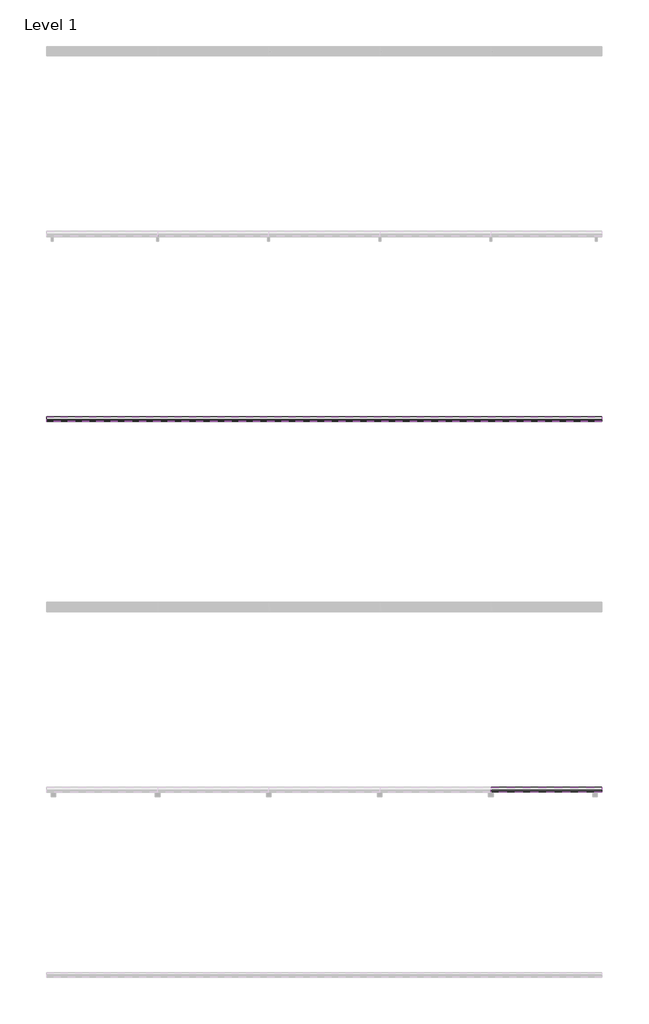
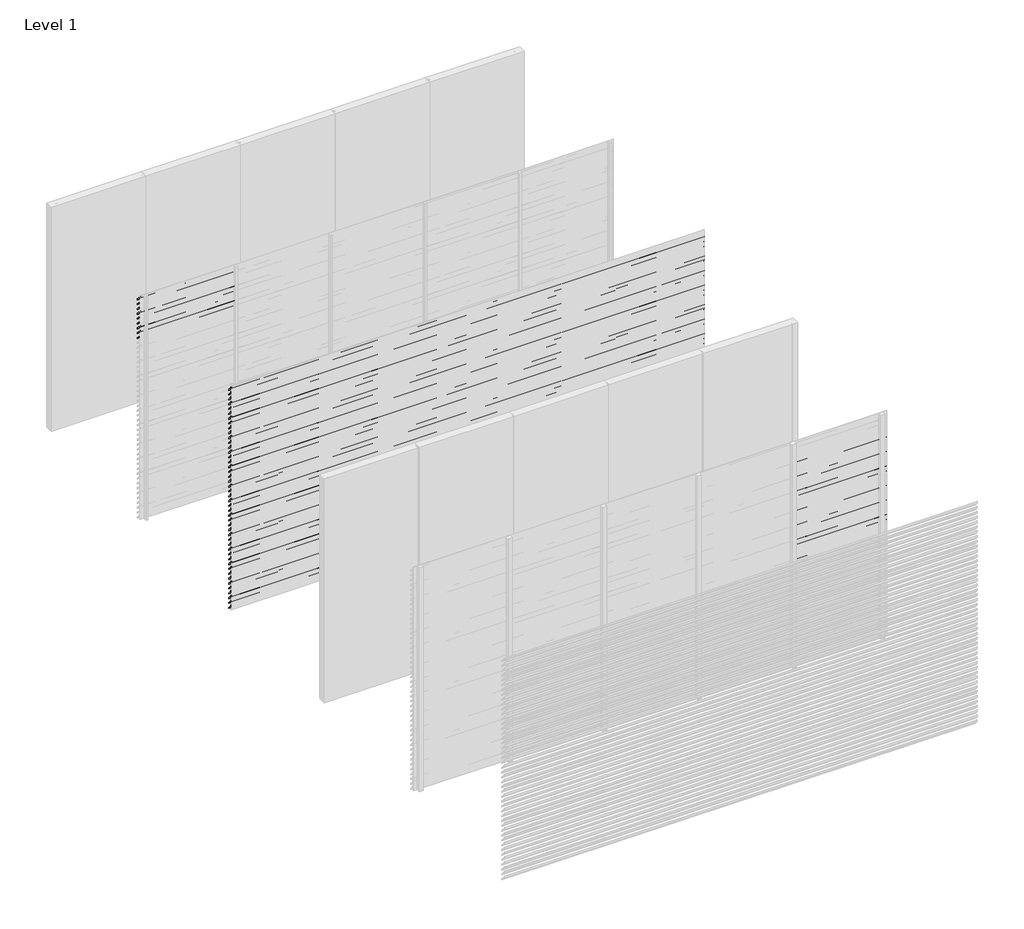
# One storey, part 7 of 12: 97 proxies.
"""IFC4 building model written with IfcOpenShell, lengths in millimetres."""

from ifc_helpers import new_model, si_unit, frame, origin, place, context, project, spatial, polyline, outline, extrude, element, save

model = new_model("IFC4")

# Units and contexts
model_context = context("Model", 3, world=origin())
ifc_project = project(units=[si_unit("LENGTHUNIT", "METRE", prefix="MILLI")], contexts=[model_context])

# Site, building, storey
site = spatial("IfcSite", under=ifc_project)
building = spatial("IfcBuilding", under=site)
storey = spatial("IfcBuildingStorey", under=building, Name="Level 1", Elevation=0.0)

# Proxies
placement = place(None, origin())
element("IfcBuildingElementProxy", 1, Name="Wall Sweeps", at=placement, inside=storey, context=model_context, shape_type="SweptSolid", body=[
    extrude(outline(polyline([(-5995.0, 2990.0), (-5995.0, 2980.7409854), (-5946.0, 2930.0), (-5946.0, 2914.0), (-5997.0, 2966.812046), (-5997.0, 2990.0), (-5995.0, 2990.0)])), frame((0.0, 0.0, 0.0), z_axis=(1.0, 0.0, 0.0), x_axis=(0.0, 1.0, 0.0)), (0.0, 0.0, 1.0), 1200.0),
])
element("IfcBuildingElementProxy", 2, Name="Wall Sweeps", at=placement, inside=storey, context=model_context, shape_type="SweptSolid", body=[
    extrude(outline(polyline([(-5995.0, 2925.0), (-5995.0, 2915.7409854), (-5946.0, 2865.0), (-5946.0, 2849.0), (-5997.0, 2901.812046), (-5997.0, 2925.0), (-5995.0, 2925.0)])), frame((0.0, 0.0, 0.0), z_axis=(1.0, 0.0, 0.0), x_axis=(0.0, 1.0, 0.0)), (0.0, 0.0, 1.0), 1200.0),
])
element("IfcBuildingElementProxy", 3, Name="Wall Sweeps", at=placement, inside=storey, context=model_context, shape_type="SweptSolid", body=[
    extrude(outline(polyline([(-5995.0, 2860.0), (-5995.0, 2850.7409854), (-5946.0, 2800.0), (-5946.0, 2784.0), (-5997.0, 2836.812046), (-5997.0, 2860.0), (-5995.0, 2860.0)])), frame((0.0, 0.0, 0.0), z_axis=(1.0, 0.0, 0.0), x_axis=(0.0, 1.0, 0.0)), (0.0, 0.0, 1.0), 1200.0),
])
element("IfcBuildingElementProxy", 4, Name="Wall Sweeps", at=placement, inside=storey, context=model_context, shape_type="SweptSolid", body=[
    extrude(outline(polyline([(-5995.0, 2795.0), (-5995.0, 2785.7409854), (-5946.0, 2735.0), (-5946.0, 2719.0), (-5997.0, 2771.812046), (-5997.0, 2795.0), (-5995.0, 2795.0)])), frame((0.0, 0.0, 0.0), z_axis=(1.0, 0.0, 0.0), x_axis=(0.0, 1.0, 0.0)), (0.0, 0.0, 1.0), 1200.0),
])
element("IfcBuildingElementProxy", 5, Name="Wall Sweeps", at=placement, inside=storey, context=model_context, shape_type="SweptSolid", body=[
    extrude(outline(polyline([(-5995.0, 2730.0), (-5995.0, 2720.7409854), (-5946.0, 2670.0), (-5946.0, 2654.0), (-5997.0, 2706.812046), (-5997.0, 2730.0), (-5995.0, 2730.0)])), frame((0.0, 0.0, 0.0), z_axis=(1.0, 0.0, 0.0), x_axis=(0.0, 1.0, 0.0)), (0.0, 0.0, 1.0), 1200.0),
])
element("IfcBuildingElementProxy", 6, Name="Wall Sweeps", at=placement, inside=storey, context=model_context, shape_type="SweptSolid", body=[
    extrude(outline(polyline([(-5995.0, 2665.0), (-5995.0, 2655.7409854), (-5946.0, 2605.0), (-5946.0, 2589.0), (-5997.0, 2641.812046), (-5997.0, 2665.0), (-5995.0, 2665.0)])), frame((0.0, 0.0, 0.0), z_axis=(1.0, 0.0, 0.0), x_axis=(0.0, 1.0, 0.0)), (0.0, 0.0, 1.0), 1200.0),
])
element("IfcBuildingElementProxy", 7, Name="Wall Sweeps", at=placement, inside=storey, context=model_context, shape_type="SweptSolid", body=[
    extrude(outline(polyline([(-5995.0, 2600.0), (-5995.0, 2590.7409854), (-5946.0, 2540.0), (-5946.0, 2524.0), (-5997.0, 2576.812046), (-5997.0, 2600.0), (-5995.0, 2600.0)])), frame((0.0, 0.0, 0.0), z_axis=(1.0, 0.0, 0.0), x_axis=(0.0, 1.0, 0.0)), (0.0, 0.0, 1.0), 1200.0),
])
element("IfcBuildingElementProxy", 8, Name="Wall Sweeps", at=placement, inside=storey, context=model_context, shape_type="SweptSolid", body=[
    extrude(outline(polyline([(-5995.0, 2535.0), (-5995.0, 2525.7409854), (-5946.0, 2475.0), (-5946.0, 2459.0), (-5997.0, 2511.812046), (-5997.0, 2535.0), (-5995.0, 2535.0)])), frame((0.0, 0.0, 0.0), z_axis=(1.0, 0.0, 0.0), x_axis=(0.0, 1.0, 0.0)), (0.0, 0.0, 1.0), 1200.0),
])
element("IfcBuildingElementProxy", 9, Name="Wall Sweeps", at=placement, inside=storey, context=model_context, shape_type="SweptSolid", body=[
    extrude(outline(polyline([(-5995.0, 2470.0), (-5995.0, 2460.7409854), (-5946.0, 2410.0), (-5946.0, 2394.0), (-5997.0, 2446.812046), (-5997.0, 2470.0), (-5995.0, 2470.0)])), frame((0.0, 0.0, 0.0), z_axis=(1.0, 0.0, 0.0), x_axis=(0.0, 1.0, 0.0)), (0.0, 0.0, 1.0), 1200.0),
])
element("IfcBuildingElementProxy", 10, Name="Wall Sweeps", at=placement, inside=storey, context=model_context, shape_type="SweptSolid", body=[
    extrude(outline(polyline([(-7995.0, 2990.0), (-7995.0, 2980.7409854), (-7946.0, 2930.0), (-7946.0, 2914.0), (-7997.0, 2966.812046), (-7997.0, 2990.0), (-7995.0, 2990.0)])), frame((0.0, 0.0, 0.0), z_axis=(1.0, 0.0, 0.0), x_axis=(0.0, 1.0, 0.0)), (0.0, 0.0, 1.0), 6000.0),
])
element("IfcBuildingElementProxy", 11, Name="Wall Sweeps", at=placement, inside=storey, context=model_context, shape_type="SweptSolid", body=[
    extrude(outline(polyline([(-7995.0, 2925.0), (-7995.0, 2915.7409854), (-7946.0, 2865.0), (-7946.0, 2849.0), (-7997.0, 2901.812046), (-7997.0, 2925.0), (-7995.0, 2925.0)])), frame((0.0, 0.0, 0.0), z_axis=(1.0, 0.0, 0.0), x_axis=(0.0, 1.0, 0.0)), (0.0, 0.0, 1.0), 6000.0),
])
element("IfcBuildingElementProxy", 12, Name="Wall Sweeps", at=placement, inside=storey, context=model_context, shape_type="SweptSolid", body=[
    extrude(outline(polyline([(-7995.0, 2860.0), (-7995.0, 2850.7409854), (-7946.0, 2800.0), (-7946.0, 2784.0), (-7997.0, 2836.812046), (-7997.0, 2860.0), (-7995.0, 2860.0)])), frame((0.0, 0.0, 0.0), z_axis=(1.0, 0.0, 0.0), x_axis=(0.0, 1.0, 0.0)), (0.0, 0.0, 1.0), 6000.0),
])
element("IfcBuildingElementProxy", 13, Name="Wall Sweeps", at=placement, inside=storey, context=model_context, shape_type="SweptSolid", body=[
    extrude(outline(polyline([(-7995.0, 2795.0), (-7995.0, 2785.7409854), (-7946.0, 2735.0), (-7946.0, 2719.0), (-7997.0, 2771.812046), (-7997.0, 2795.0), (-7995.0, 2795.0)])), frame((0.0, 0.0, 0.0), z_axis=(1.0, 0.0, 0.0), x_axis=(0.0, 1.0, 0.0)), (0.0, 0.0, 1.0), 6000.0),
])
element("IfcBuildingElementProxy", 14, Name="Wall Sweeps", at=placement, inside=storey, context=model_context, shape_type="SweptSolid", body=[
    extrude(outline(polyline([(-7995.0, 2730.0), (-7995.0, 2720.7409854), (-7946.0, 2670.0), (-7946.0, 2654.0), (-7997.0, 2706.812046), (-7997.0, 2730.0), (-7995.0, 2730.0)])), frame((0.0, 0.0, 0.0), z_axis=(1.0, 0.0, 0.0), x_axis=(0.0, 1.0, 0.0)), (0.0, 0.0, 1.0), 6000.0),
])
element("IfcBuildingElementProxy", 15, Name="Wall Sweeps", at=placement, inside=storey, context=model_context, shape_type="SweptSolid", body=[
    extrude(outline(polyline([(-7995.0, 2665.0), (-7995.0, 2655.7409854), (-7946.0, 2605.0), (-7946.0, 2589.0), (-7997.0, 2641.812046), (-7997.0, 2665.0), (-7995.0, 2665.0)])), frame((0.0, 0.0, 0.0), z_axis=(1.0, 0.0, 0.0), x_axis=(0.0, 1.0, 0.0)), (0.0, 0.0, 1.0), 6000.0),
])
element("IfcBuildingElementProxy", 16, Name="Wall Sweeps", at=placement, inside=storey, context=model_context, shape_type="SweptSolid", body=[
    extrude(outline(polyline([(-7995.0, 2600.0), (-7995.0, 2590.7409854), (-7946.0, 2540.0), (-7946.0, 2524.0), (-7997.0, 2576.812046), (-7997.0, 2600.0), (-7995.0, 2600.0)])), frame((0.0, 0.0, 0.0), z_axis=(1.0, 0.0, 0.0), x_axis=(0.0, 1.0, 0.0)), (0.0, 0.0, 1.0), 6000.0),
])
element("IfcBuildingElementProxy", 17, Name="Wall Sweeps", at=placement, inside=storey, context=model_context, shape_type="SweptSolid", body=[
    extrude(outline(polyline([(-7995.0, 2535.0), (-7995.0, 2525.7409854), (-7946.0, 2475.0), (-7946.0, 2459.0), (-7997.0, 2511.812046), (-7997.0, 2535.0), (-7995.0, 2535.0)])), frame((0.0, 0.0, 0.0), z_axis=(1.0, 0.0, 0.0), x_axis=(0.0, 1.0, 0.0)), (0.0, 0.0, 1.0), 6000.0),
])
element("IfcBuildingElementProxy", 18, Name="Wall Sweeps", at=placement, inside=storey, context=model_context, shape_type="SweptSolid", body=[
    extrude(outline(polyline([(-7995.0, 2470.0), (-7995.0, 2460.7409854), (-7946.0, 2410.0), (-7946.0, 2394.0), (-7997.0, 2446.812046), (-7997.0, 2470.0), (-7995.0, 2470.0)])), frame((0.0, 0.0, 0.0), z_axis=(1.0, 0.0, 0.0), x_axis=(0.0, 1.0, 0.0)), (0.0, 0.0, 1.0), 6000.0),
])
element("IfcBuildingElementProxy", 19, Name="Wall Sweeps", at=placement, inside=storey, context=model_context, shape_type="SweptSolid", body=[
    extrude(outline(polyline([(-7995.0, 2405.0), (-7995.0, 2395.7409854), (-7946.0, 2345.0), (-7946.0, 2329.0), (-7997.0, 2381.812046), (-7997.0, 2405.0), (-7995.0, 2405.0)])), frame((0.0, 0.0, 0.0), z_axis=(1.0, 0.0, 0.0), x_axis=(0.0, 1.0, 0.0)), (0.0, 0.0, 1.0), 6000.0),
])
element("IfcBuildingElementProxy", 20, Name="Wall Sweeps", at=placement, inside=storey, context=model_context, shape_type="SweptSolid", body=[
    extrude(outline(polyline([(-7995.0, 2340.0), (-7995.0, 2330.7409854), (-7946.0, 2280.0), (-7946.0, 2264.0), (-7997.0, 2316.812046), (-7997.0, 2340.0), (-7995.0, 2340.0)])), frame((0.0, 0.0, 0.0), z_axis=(1.0, 0.0, 0.0), x_axis=(0.0, 1.0, 0.0)), (0.0, 0.0, 1.0), 6000.0),
])
element("IfcBuildingElementProxy", 21, Name="Wall Sweeps", at=placement, inside=storey, context=model_context, shape_type="SweptSolid", body=[
    extrude(outline(polyline([(-7995.0, 2275.0), (-7995.0, 2265.7409854), (-7946.0, 2215.0), (-7946.0, 2199.0), (-7997.0, 2251.812046), (-7997.0, 2275.0), (-7995.0, 2275.0)])), frame((0.0, 0.0, 0.0), z_axis=(1.0, 0.0, 0.0), x_axis=(0.0, 1.0, 0.0)), (0.0, 0.0, 1.0), 6000.0),
])
element("IfcBuildingElementProxy", 22, Name="Wall Sweeps", at=placement, inside=storey, context=model_context, shape_type="SweptSolid", body=[
    extrude(outline(polyline([(-7995.0, 2210.0), (-7995.0, 2200.7409854), (-7946.0, 2150.0), (-7946.0, 2134.0), (-7997.0, 2186.812046), (-7997.0, 2210.0), (-7995.0, 2210.0)])), frame((0.0, 0.0, 0.0), z_axis=(1.0, 0.0, 0.0), x_axis=(0.0, 1.0, 0.0)), (0.0, 0.0, 1.0), 6000.0),
])
element("IfcBuildingElementProxy", 23, Name="Wall Sweeps", at=placement, inside=storey, context=model_context, shape_type="SweptSolid", body=[
    extrude(outline(polyline([(-7995.0, 2145.0), (-7995.0, 2135.7409854), (-7946.0, 2085.0), (-7946.0, 2069.0), (-7997.0, 2121.812046), (-7997.0, 2145.0), (-7995.0, 2145.0)])), frame((0.0, 0.0, 0.0), z_axis=(1.0, 0.0, 0.0), x_axis=(0.0, 1.0, 0.0)), (0.0, 0.0, 1.0), 6000.0),
])
element("IfcBuildingElementProxy", 24, Name="Wall Sweeps", at=placement, inside=storey, context=model_context, shape_type="SweptSolid", body=[
    extrude(outline(polyline([(-7995.0, 2080.0), (-7995.0, 2070.7409854), (-7946.0, 2020.0), (-7946.0, 2004.0), (-7997.0, 2056.812046), (-7997.0, 2080.0), (-7995.0, 2080.0)])), frame((0.0, 0.0, 0.0), z_axis=(1.0, 0.0, 0.0), x_axis=(0.0, 1.0, 0.0)), (0.0, 0.0, 1.0), 6000.0),
])
element("IfcBuildingElementProxy", 25, Name="Wall Sweeps", at=placement, inside=storey, context=model_context, shape_type="SweptSolid", body=[
    extrude(outline(polyline([(-7995.0, 2015.0), (-7995.0, 2005.7409854), (-7946.0, 1955.0), (-7946.0, 1939.0), (-7997.0, 1991.812046), (-7997.0, 2015.0), (-7995.0, 2015.0)])), frame((0.0, 0.0, 0.0), z_axis=(1.0, 0.0, 0.0), x_axis=(0.0, 1.0, 0.0)), (0.0, 0.0, 1.0), 6000.0),
])
element("IfcBuildingElementProxy", 26, Name="Wall Sweeps", at=placement, inside=storey, context=model_context, shape_type="SweptSolid", body=[
    extrude(outline(polyline([(-7995.0, 1950.0), (-7995.0, 1940.7409854), (-7946.0, 1890.0), (-7946.0, 1874.0), (-7997.0, 1926.812046), (-7997.0, 1950.0), (-7995.0, 1950.0)])), frame((0.0, 0.0, 0.0), z_axis=(1.0, 0.0, 0.0), x_axis=(0.0, 1.0, 0.0)), (0.0, 0.0, 1.0), 6000.0),
])
element("IfcBuildingElementProxy", 27, Name="Wall Sweeps", at=placement, inside=storey, context=model_context, shape_type="SweptSolid", body=[
    extrude(outline(polyline([(-7995.0, 1885.0), (-7995.0, 1875.7409854), (-7946.0, 1825.0), (-7946.0, 1809.0), (-7997.0, 1861.812046), (-7997.0, 1885.0), (-7995.0, 1885.0)])), frame((0.0, 0.0, 0.0), z_axis=(1.0, 0.0, 0.0), x_axis=(0.0, 1.0, 0.0)), (0.0, 0.0, 1.0), 6000.0),
])
element("IfcBuildingElementProxy", 28, Name="Wall Sweeps", at=placement, inside=storey, context=model_context, shape_type="SweptSolid", body=[
    extrude(outline(polyline([(-7995.0, 1820.0), (-7995.0, 1810.7409854), (-7946.0, 1760.0), (-7946.0, 1744.0), (-7997.0, 1796.812046), (-7997.0, 1820.0), (-7995.0, 1820.0)])), frame((0.0, 0.0, 0.0), z_axis=(1.0, 0.0, 0.0), x_axis=(0.0, 1.0, 0.0)), (0.0, 0.0, 1.0), 6000.0),
])
element("IfcBuildingElementProxy", 29, Name="Wall Sweeps", at=placement, inside=storey, context=model_context, shape_type="SweptSolid", body=[
    extrude(outline(polyline([(-7995.0, 1755.0), (-7995.0, 1745.7409854), (-7946.0, 1695.0), (-7946.0, 1679.0), (-7997.0, 1731.812046), (-7997.0, 1755.0), (-7995.0, 1755.0)])), frame((0.0, 0.0, 0.0), z_axis=(1.0, 0.0, 0.0), x_axis=(0.0, 1.0, 0.0)), (0.0, 0.0, 1.0), 6000.0),
])
element("IfcBuildingElementProxy", 30, Name="Wall Sweeps", at=placement, inside=storey, context=model_context, shape_type="SweptSolid", body=[
    extrude(outline(polyline([(-7995.0, 1690.0), (-7995.0, 1680.7409854), (-7946.0, 1630.0), (-7946.0, 1614.0), (-7997.0, 1666.812046), (-7997.0, 1690.0), (-7995.0, 1690.0)])), frame((0.0, 0.0, 0.0), z_axis=(1.0, 0.0, 0.0), x_axis=(0.0, 1.0, 0.0)), (0.0, 0.0, 1.0), 6000.0),
])
element("IfcBuildingElementProxy", 31, Name="Wall Sweeps", at=placement, inside=storey, context=model_context, shape_type="SweptSolid", body=[
    extrude(outline(polyline([(-7995.0, 1625.0), (-7995.0, 1615.7409854), (-7946.0, 1565.0), (-7946.0, 1549.0), (-7997.0, 1601.812046), (-7997.0, 1625.0), (-7995.0, 1625.0)])), frame((0.0, 0.0, 0.0), z_axis=(1.0, 0.0, 0.0), x_axis=(0.0, 1.0, 0.0)), (0.0, 0.0, 1.0), 6000.0),
])
element("IfcBuildingElementProxy", 32, Name="Wall Sweeps", at=placement, inside=storey, context=model_context, shape_type="SweptSolid", body=[
    extrude(outline(polyline([(-7995.0, 1560.0), (-7995.0, 1550.7409854), (-7946.0, 1500.0), (-7946.0, 1484.0), (-7997.0, 1536.812046), (-7997.0, 1560.0), (-7995.0, 1560.0)])), frame((0.0, 0.0, 0.0), z_axis=(1.0, 0.0, 0.0), x_axis=(0.0, 1.0, 0.0)), (0.0, 0.0, 1.0), 6000.0),
])
element("IfcBuildingElementProxy", 33, Name="Wall Sweeps", at=placement, inside=storey, context=model_context, shape_type="SweptSolid", body=[
    extrude(outline(polyline([(-7995.0, 1495.0), (-7995.0, 1485.7409854), (-7946.0, 1435.0), (-7946.0, 1419.0), (-7997.0, 1471.812046), (-7997.0, 1495.0), (-7995.0, 1495.0)])), frame((0.0, 0.0, 0.0), z_axis=(1.0, 0.0, 0.0), x_axis=(0.0, 1.0, 0.0)), (0.0, 0.0, 1.0), 6000.0),
])
element("IfcBuildingElementProxy", 34, Name="Wall Sweeps", at=placement, inside=storey, context=model_context, shape_type="SweptSolid", body=[
    extrude(outline(polyline([(-7995.0, 1430.0), (-7995.0, 1420.7409854), (-7946.0, 1370.0), (-7946.0, 1354.0), (-7997.0, 1406.812046), (-7997.0, 1430.0), (-7995.0, 1430.0)])), frame((0.0, 0.0, 0.0), z_axis=(1.0, 0.0, 0.0), x_axis=(0.0, 1.0, 0.0)), (0.0, 0.0, 1.0), 6000.0),
])
element("IfcBuildingElementProxy", 35, Name="Wall Sweeps", at=placement, inside=storey, context=model_context, shape_type="SweptSolid", body=[
    extrude(outline(polyline([(-7995.0, 1365.0), (-7995.0, 1355.7409854), (-7946.0, 1305.0), (-7946.0, 1289.0), (-7997.0, 1341.812046), (-7997.0, 1365.0), (-7995.0, 1365.0)])), frame((0.0, 0.0, 0.0), z_axis=(1.0, 0.0, 0.0), x_axis=(0.0, 1.0, 0.0)), (0.0, 0.0, 1.0), 6000.0),
])
element("IfcBuildingElementProxy", 36, Name="Wall Sweeps", at=placement, inside=storey, context=model_context, shape_type="SweptSolid", body=[
    extrude(outline(polyline([(-7995.0, 1300.0), (-7995.0, 1290.7409854), (-7946.0, 1240.0), (-7946.0, 1224.0), (-7997.0, 1276.812046), (-7997.0, 1300.0), (-7995.0, 1300.0)])), frame((0.0, 0.0, 0.0), z_axis=(1.0, 0.0, 0.0), x_axis=(0.0, 1.0, 0.0)), (0.0, 0.0, 1.0), 6000.0),
])
element("IfcBuildingElementProxy", 37, Name="Wall Sweeps", at=placement, inside=storey, context=model_context, shape_type="SweptSolid", body=[
    extrude(outline(polyline([(-7995.0, 1235.0), (-7995.0, 1225.7409854), (-7946.0, 1175.0), (-7946.0, 1159.0), (-7997.0, 1211.812046), (-7997.0, 1235.0), (-7995.0, 1235.0)])), frame((0.0, 0.0, 0.0), z_axis=(1.0, 0.0, 0.0), x_axis=(0.0, 1.0, 0.0)), (0.0, 0.0, 1.0), 6000.0),
])
element("IfcBuildingElementProxy", 38, Name="Wall Sweeps", at=placement, inside=storey, context=model_context, shape_type="SweptSolid", body=[
    extrude(outline(polyline([(-7995.0, 1170.0), (-7995.0, 1160.7409854), (-7946.0, 1110.0), (-7946.0, 1094.0), (-7997.0, 1146.812046), (-7997.0, 1170.0), (-7995.0, 1170.0)])), frame((0.0, 0.0, 0.0), z_axis=(1.0, 0.0, 0.0), x_axis=(0.0, 1.0, 0.0)), (0.0, 0.0, 1.0), 6000.0),
])
element("IfcBuildingElementProxy", 39, Name="Wall Sweeps", at=placement, inside=storey, context=model_context, shape_type="SweptSolid", body=[
    extrude(outline(polyline([(-7995.0, 1105.0), (-7995.0, 1095.7409854), (-7946.0, 1045.0), (-7946.0, 1029.0), (-7997.0, 1081.812046), (-7997.0, 1105.0), (-7995.0, 1105.0)])), frame((0.0, 0.0, 0.0), z_axis=(1.0, 0.0, 0.0), x_axis=(0.0, 1.0, 0.0)), (0.0, 0.0, 1.0), 6000.0),
])
element("IfcBuildingElementProxy", 40, Name="Wall Sweeps", at=placement, inside=storey, context=model_context, shape_type="SweptSolid", body=[
    extrude(outline(polyline([(-7995.0, 1040.0), (-7995.0, 1030.7409854), (-7946.0, 980.0), (-7946.0, 964.0), (-7997.0, 1016.812046), (-7997.0, 1040.0), (-7995.0, 1040.0)])), frame((0.0, 0.0, 0.0), z_axis=(1.0, 0.0, 0.0), x_axis=(0.0, 1.0, 0.0)), (0.0, 0.0, 1.0), 6000.0),
])
element("IfcBuildingElementProxy", 41, Name="Wall Sweeps", at=placement, inside=storey, context=model_context, shape_type="SweptSolid", body=[
    extrude(outline(polyline([(-7995.0, 975.0), (-7995.0, 965.7409854), (-7946.0, 915.0), (-7946.0, 899.0), (-7997.0, 951.812046), (-7997.0, 975.0), (-7995.0, 975.0)])), frame((0.0, 0.0, 0.0), z_axis=(1.0, 0.0, 0.0), x_axis=(0.0, 1.0, 0.0)), (0.0, 0.0, 1.0), 6000.0),
])
element("IfcBuildingElementProxy", 42, Name="Wall Sweeps", at=placement, inside=storey, context=model_context, shape_type="SweptSolid", body=[
    extrude(outline(polyline([(-7995.0, 910.0), (-7995.0, 900.7409854), (-7946.0, 850.0), (-7946.0, 834.0), (-7997.0, 886.812046), (-7997.0, 910.0), (-7995.0, 910.0)])), frame((0.0, 0.0, 0.0), z_axis=(1.0, 0.0, 0.0), x_axis=(0.0, 1.0, 0.0)), (0.0, 0.0, 1.0), 6000.0),
])
element("IfcBuildingElementProxy", 43, Name="Wall Sweeps", at=placement, inside=storey, context=model_context, shape_type="SweptSolid", body=[
    extrude(outline(polyline([(-7995.0, 845.0), (-7995.0, 835.7409854), (-7946.0, 785.0), (-7946.0, 769.0), (-7997.0, 821.812046), (-7997.0, 845.0), (-7995.0, 845.0)])), frame((0.0, 0.0, 0.0), z_axis=(1.0, 0.0, 0.0), x_axis=(0.0, 1.0, 0.0)), (0.0, 0.0, 1.0), 6000.0),
])
element("IfcBuildingElementProxy", 44, Name="Wall Sweeps", at=placement, inside=storey, context=model_context, shape_type="SweptSolid", body=[
    extrude(outline(polyline([(-7995.0, 780.0), (-7995.0, 770.7409854), (-7946.0, 720.0), (-7946.0, 704.0), (-7997.0, 756.812046), (-7997.0, 780.0), (-7995.0, 780.0)])), frame((0.0, 0.0, 0.0), z_axis=(1.0, 0.0, 0.0), x_axis=(0.0, 1.0, 0.0)), (0.0, 0.0, 1.0), 6000.0),
])
element("IfcBuildingElementProxy", 45, Name="Wall Sweeps", at=placement, inside=storey, context=model_context, shape_type="SweptSolid", body=[
    extrude(outline(polyline([(-7995.0, 715.0), (-7995.0, 705.7409854), (-7946.0, 655.0), (-7946.0, 639.0), (-7997.0, 691.812046), (-7997.0, 715.0), (-7995.0, 715.0)])), frame((0.0, 0.0, 0.0), z_axis=(1.0, 0.0, 0.0), x_axis=(0.0, 1.0, 0.0)), (0.0, 0.0, 1.0), 6000.0),
])
element("IfcBuildingElementProxy", 46, Name="Wall Sweeps", at=placement, inside=storey, context=model_context, shape_type="SweptSolid", body=[
    extrude(outline(polyline([(-7995.0, 650.0), (-7995.0, 640.7409854), (-7946.0, 590.0), (-7946.0, 574.0), (-7997.0, 626.812046), (-7997.0, 650.0), (-7995.0, 650.0)])), frame((0.0, 0.0, 0.0), z_axis=(1.0, 0.0, 0.0), x_axis=(0.0, 1.0, 0.0)), (0.0, 0.0, 1.0), 6000.0),
])
element("IfcBuildingElementProxy", 47, Name="Wall Sweeps", at=placement, inside=storey, context=model_context, shape_type="SweptSolid", body=[
    extrude(outline(polyline([(-7995.0, 585.0), (-7995.0, 575.7409854), (-7946.0, 525.0), (-7946.0, 509.0), (-7997.0, 561.812046), (-7997.0, 585.0), (-7995.0, 585.0)])), frame((0.0, 0.0, 0.0), z_axis=(1.0, 0.0, 0.0), x_axis=(0.0, 1.0, 0.0)), (0.0, 0.0, 1.0), 6000.0),
])
element("IfcBuildingElementProxy", 48, Name="Wall Sweeps", at=placement, inside=storey, context=model_context, shape_type="SweptSolid", body=[
    extrude(outline(polyline([(-7995.0, 520.0), (-7995.0, 510.7409854), (-7946.0, 460.0), (-7946.0, 444.0), (-7997.0, 496.812046), (-7997.0, 520.0), (-7995.0, 520.0)])), frame((0.0, 0.0, 0.0), z_axis=(1.0, 0.0, 0.0), x_axis=(0.0, 1.0, 0.0)), (0.0, 0.0, 1.0), 6000.0),
])
element("IfcBuildingElementProxy", 49, Name="Wall Sweeps", at=placement, inside=storey, context=model_context, shape_type="SweptSolid", body=[
    extrude(outline(polyline([(-7995.0, 455.0), (-7995.0, 445.7409854), (-7946.0, 395.0), (-7946.0, 379.0), (-7997.0, 431.812046), (-7997.0, 455.0), (-7995.0, 455.0)])), frame((0.0, 0.0, 0.0), z_axis=(1.0, 0.0, 0.0), x_axis=(0.0, 1.0, 0.0)), (0.0, 0.0, 1.0), 6000.0),
])
element("IfcBuildingElementProxy", 50, Name="Wall Sweeps", at=placement, inside=storey, context=model_context, shape_type="SweptSolid", body=[
    extrude(outline(polyline([(-7995.0, 390.0), (-7995.0, 380.7409854), (-7946.0, 330.0), (-7946.0, 314.0), (-7997.0, 366.812046), (-7997.0, 390.0), (-7995.0, 390.0)])), frame((0.0, 0.0, 0.0), z_axis=(1.0, 0.0, 0.0), x_axis=(0.0, 1.0, 0.0)), (0.0, 0.0, 1.0), 6000.0),
])
element("IfcBuildingElementProxy", 51, Name="Wall Sweeps", at=placement, inside=storey, context=model_context, shape_type="SweptSolid", body=[
    extrude(outline(polyline([(-7995.0, 325.0), (-7995.0, 315.7409854), (-7946.0, 265.0), (-7946.0, 249.0), (-7997.0, 301.812046), (-7997.0, 325.0), (-7995.0, 325.0)])), frame((0.0, 0.0, 0.0), z_axis=(1.0, 0.0, 0.0), x_axis=(0.0, 1.0, 0.0)), (0.0, 0.0, 1.0), 6000.0),
])
element("IfcBuildingElementProxy", 52, Name="Wall Sweeps", at=placement, inside=storey, context=model_context, shape_type="SweptSolid", body=[
    extrude(outline(polyline([(-7995.0, 260.0), (-7995.0, 250.7409854), (-7946.0, 200.0), (-7946.0, 184.0), (-7997.0, 236.812046), (-7997.0, 260.0), (-7995.0, 260.0)])), frame((0.0, 0.0, 0.0), z_axis=(1.0, 0.0, 0.0), x_axis=(0.0, 1.0, 0.0)), (0.0, 0.0, 1.0), 6000.0),
])
element("IfcBuildingElementProxy", 53, Name="Wall Sweeps", at=placement, inside=storey, context=model_context, shape_type="SweptSolid", body=[
    extrude(outline(polyline([(-7995.0, 195.0), (-7995.0, 185.7409854), (-7946.0, 135.0), (-7946.0, 119.0), (-7997.0, 171.812046), (-7997.0, 195.0), (-7995.0, 195.0)])), frame((0.0, 0.0, 0.0), z_axis=(1.0, 0.0, 0.0), x_axis=(0.0, 1.0, 0.0)), (0.0, 0.0, 1.0), 6000.0),
])
element("IfcBuildingElementProxy", 54, Name="Wall Sweeps", at=placement, inside=storey, context=model_context, shape_type="SweptSolid", body=[
    extrude(outline(polyline([(-7995.0, 130.0), (-7995.0, 120.7409854), (-7946.0, 70.0), (-7946.0, 54.0), (-7997.0, 106.812046), (-7997.0, 130.0), (-7995.0, 130.0)])), frame((0.0, 0.0, 0.0), z_axis=(1.0, 0.0, 0.0), x_axis=(0.0, 1.0, 0.0)), (0.0, 0.0, 1.0), 6000.0),
])
element("IfcBuildingElementProxy", 55, Name="Wall Sweeps", at=placement, inside=storey, context=model_context, shape_type="SweptSolid", body=[
    extrude(outline(polyline([(-7995.0, 65.0), (-7995.0, 55.7409854), (-7946.0, 5.0), (-7946.0, -11.0), (-7997.0, 41.812046), (-7997.0, 65.0), (-7995.0, 65.0)])), frame((0.0, 0.0, 0.0), z_axis=(1.0, 0.0, 0.0), x_axis=(0.0, 1.0, 0.0)), (0.0, 0.0, 1.0), 6000.0),
])
element("IfcBuildingElementProxy", 56, Name="Wall Sweeps", at=placement, inside=storey, context=model_context, shape_type="SweptSolid", body=[
    extrude(outline(polyline([(-11995.0, 2730.0), (-11995.0, 2720.7409854), (-11946.0, 2670.0), (-11946.0, 2654.0), (-11997.0, 2706.812046), (-11997.0, 2730.0), (-11995.0, 2730.0)])), frame((4800.0, 0.0, 0.0), z_axis=(1.0, 0.0, 0.0), x_axis=(0.0, 1.0, 0.0)), (0.0, 0.0, 1.0), 1200.0),
])
element("IfcBuildingElementProxy", 57, Name="Wall Sweeps", at=placement, inside=storey, context=model_context, shape_type="SweptSolid", body=[
    extrude(outline(polyline([(-11995.0, 2665.0), (-11995.0, 2655.7409854), (-11946.0, 2605.0), (-11946.0, 2589.0), (-11997.0, 2641.812046), (-11997.0, 2665.0), (-11995.0, 2665.0)])), frame((4800.0, 0.0, 0.0), z_axis=(1.0, 0.0, 0.0), x_axis=(0.0, 1.0, 0.0)), (0.0, 0.0, 1.0), 1200.0),
])
element("IfcBuildingElementProxy", 58, Name="Wall Sweeps", at=placement, inside=storey, context=model_context, shape_type="SweptSolid", body=[
    extrude(outline(polyline([(-11995.0, 2600.0), (-11995.0, 2590.7409854), (-11946.0, 2540.0), (-11946.0, 2524.0), (-11997.0, 2576.812046), (-11997.0, 2600.0), (-11995.0, 2600.0)])), frame((4800.0, 0.0, 0.0), z_axis=(1.0, 0.0, 0.0), x_axis=(0.0, 1.0, 0.0)), (0.0, 0.0, 1.0), 1200.0),
])
element("IfcBuildingElementProxy", 59, Name="Wall Sweeps", at=placement, inside=storey, context=model_context, shape_type="SweptSolid", body=[
    extrude(outline(polyline([(-11995.0, 2535.0), (-11995.0, 2525.7409854), (-11946.0, 2475.0), (-11946.0, 2459.0), (-11997.0, 2511.812046), (-11997.0, 2535.0), (-11995.0, 2535.0)])), frame((4800.0, 0.0, 0.0), z_axis=(1.0, 0.0, 0.0), x_axis=(0.0, 1.0, 0.0)), (0.0, 0.0, 1.0), 1200.0),
])
element("IfcBuildingElementProxy", 60, Name="Wall Sweeps", at=placement, inside=storey, context=model_context, shape_type="SweptSolid", body=[
    extrude(outline(polyline([(-11995.0, 2470.0), (-11995.0, 2460.7409854), (-11946.0, 2410.0), (-11946.0, 2394.0), (-11997.0, 2446.812046), (-11997.0, 2470.0), (-11995.0, 2470.0)])), frame((4800.0, 0.0, 0.0), z_axis=(1.0, 0.0, 0.0), x_axis=(0.0, 1.0, 0.0)), (0.0, 0.0, 1.0), 1200.0),
])
element("IfcBuildingElementProxy", 61, Name="Wall Sweeps", at=placement, inside=storey, context=model_context, shape_type="SweptSolid", body=[
    extrude(outline(polyline([(-11995.0, 2405.0), (-11995.0, 2395.7409854), (-11946.0, 2345.0), (-11946.0, 2329.0), (-11997.0, 2381.812046), (-11997.0, 2405.0), (-11995.0, 2405.0)])), frame((4800.0, 0.0, 0.0), z_axis=(1.0, 0.0, 0.0), x_axis=(0.0, 1.0, 0.0)), (0.0, 0.0, 1.0), 1200.0),
])
element("IfcBuildingElementProxy", 62, Name="Wall Sweeps", at=placement, inside=storey, context=model_context, shape_type="SweptSolid", body=[
    extrude(outline(polyline([(-11995.0, 2340.0), (-11995.0, 2330.7409854), (-11946.0, 2280.0), (-11946.0, 2264.0), (-11997.0, 2316.812046), (-11997.0, 2340.0), (-11995.0, 2340.0)])), frame((4800.0, 0.0, 0.0), z_axis=(1.0, 0.0, 0.0), x_axis=(0.0, 1.0, 0.0)), (0.0, 0.0, 1.0), 1200.0),
])
element("IfcBuildingElementProxy", 63, Name="Wall Sweeps", at=placement, inside=storey, context=model_context, shape_type="SweptSolid", body=[
    extrude(outline(polyline([(-11995.0, 2275.0), (-11995.0, 2265.7409854), (-11946.0, 2215.0), (-11946.0, 2199.0), (-11997.0, 2251.812046), (-11997.0, 2275.0), (-11995.0, 2275.0)])), frame((4800.0, 0.0, 0.0), z_axis=(1.0, 0.0, 0.0), x_axis=(0.0, 1.0, 0.0)), (0.0, 0.0, 1.0), 1200.0),
])
element("IfcBuildingElementProxy", 64, Name="Wall Sweeps", at=placement, inside=storey, context=model_context, shape_type="SweptSolid", body=[
    extrude(outline(polyline([(-11995.0, 2210.0), (-11995.0, 2200.7409854), (-11946.0, 2150.0), (-11946.0, 2134.0), (-11997.0, 2186.812046), (-11997.0, 2210.0), (-11995.0, 2210.0)])), frame((4800.0, 0.0, 0.0), z_axis=(1.0, 0.0, 0.0), x_axis=(0.0, 1.0, 0.0)), (0.0, 0.0, 1.0), 1200.0),
])
element("IfcBuildingElementProxy", 65, Name="Wall Sweeps", at=placement, inside=storey, context=model_context, shape_type="SweptSolid", body=[
    extrude(outline(polyline([(-11995.0, 2145.0), (-11995.0, 2135.7409854), (-11946.0, 2085.0), (-11946.0, 2069.0), (-11997.0, 2121.812046), (-11997.0, 2145.0), (-11995.0, 2145.0)])), frame((4800.0, 0.0, 0.0), z_axis=(1.0, 0.0, 0.0), x_axis=(0.0, 1.0, 0.0)), (0.0, 0.0, 1.0), 1200.0),
])
element("IfcBuildingElementProxy", 66, Name="Wall Sweeps", at=placement, inside=storey, context=model_context, shape_type="SweptSolid", body=[
    extrude(outline(polyline([(-11995.0, 2080.0), (-11995.0, 2070.7409854), (-11946.0, 2020.0), (-11946.0, 2004.0), (-11997.0, 2056.812046), (-11997.0, 2080.0), (-11995.0, 2080.0)])), frame((4800.0, 0.0, 0.0), z_axis=(1.0, 0.0, 0.0), x_axis=(0.0, 1.0, 0.0)), (0.0, 0.0, 1.0), 1200.0),
])
element("IfcBuildingElementProxy", 67, Name="Wall Sweeps", at=placement, inside=storey, context=model_context, shape_type="SweptSolid", body=[
    extrude(outline(polyline([(-11995.0, 2015.0), (-11995.0, 2005.7409854), (-11946.0, 1955.0), (-11946.0, 1939.0), (-11997.0, 1991.812046), (-11997.0, 2015.0), (-11995.0, 2015.0)])), frame((4800.0, 0.0, 0.0), z_axis=(1.0, 0.0, 0.0), x_axis=(0.0, 1.0, 0.0)), (0.0, 0.0, 1.0), 1200.0),
])
element("IfcBuildingElementProxy", 68, Name="Wall Sweeps", at=placement, inside=storey, context=model_context, shape_type="SweptSolid", body=[
    extrude(outline(polyline([(-11995.0, 1950.0), (-11995.0, 1940.7409854), (-11946.0, 1890.0), (-11946.0, 1874.0), (-11997.0, 1926.812046), (-11997.0, 1950.0), (-11995.0, 1950.0)])), frame((4800.0, 0.0, 0.0), z_axis=(1.0, 0.0, 0.0), x_axis=(0.0, 1.0, 0.0)), (0.0, 0.0, 1.0), 1200.0),
])
element("IfcBuildingElementProxy", 69, Name="Wall Sweeps", at=placement, inside=storey, context=model_context, shape_type="SweptSolid", body=[
    extrude(outline(polyline([(-11995.0, 1885.0), (-11995.0, 1875.7409854), (-11946.0, 1825.0), (-11946.0, 1809.0), (-11997.0, 1861.812046), (-11997.0, 1885.0), (-11995.0, 1885.0)])), frame((4800.0, 0.0, 0.0), z_axis=(1.0, 0.0, 0.0), x_axis=(0.0, 1.0, 0.0)), (0.0, 0.0, 1.0), 1200.0),
])
element("IfcBuildingElementProxy", 70, Name="Wall Sweeps", at=placement, inside=storey, context=model_context, shape_type="SweptSolid", body=[
    extrude(outline(polyline([(-11995.0, 1820.0), (-11995.0, 1810.7409854), (-11946.0, 1760.0), (-11946.0, 1744.0), (-11997.0, 1796.812046), (-11997.0, 1820.0), (-11995.0, 1820.0)])), frame((4800.0, 0.0, 0.0), z_axis=(1.0, 0.0, 0.0), x_axis=(0.0, 1.0, 0.0)), (0.0, 0.0, 1.0), 1200.0),
])
element("IfcBuildingElementProxy", 71, Name="Wall Sweeps", at=placement, inside=storey, context=model_context, shape_type="SweptSolid", body=[
    extrude(outline(polyline([(-11995.0, 1755.0), (-11995.0, 1745.7409854), (-11946.0, 1695.0), (-11946.0, 1679.0), (-11997.0, 1731.812046), (-11997.0, 1755.0), (-11995.0, 1755.0)])), frame((4800.0, 0.0, 0.0), z_axis=(1.0, 0.0, 0.0), x_axis=(0.0, 1.0, 0.0)), (0.0, 0.0, 1.0), 1200.0),
])
element("IfcBuildingElementProxy", 72, Name="Wall Sweeps", at=placement, inside=storey, context=model_context, shape_type="SweptSolid", body=[
    extrude(outline(polyline([(-11995.0, 1690.0), (-11995.0, 1680.7409854), (-11946.0, 1630.0), (-11946.0, 1614.0), (-11997.0, 1666.812046), (-11997.0, 1690.0), (-11995.0, 1690.0)])), frame((4800.0, 0.0, 0.0), z_axis=(1.0, 0.0, 0.0), x_axis=(0.0, 1.0, 0.0)), (0.0, 0.0, 1.0), 1200.0),
])
element("IfcBuildingElementProxy", 73, Name="Wall Sweeps", at=placement, inside=storey, context=model_context, shape_type="SweptSolid", body=[
    extrude(outline(polyline([(-11995.0, 1625.0), (-11995.0, 1615.7409854), (-11946.0, 1565.0), (-11946.0, 1549.0), (-11997.0, 1601.812046), (-11997.0, 1625.0), (-11995.0, 1625.0)])), frame((4800.0, 0.0, 0.0), z_axis=(1.0, 0.0, 0.0), x_axis=(0.0, 1.0, 0.0)), (0.0, 0.0, 1.0), 1200.0),
])
element("IfcBuildingElementProxy", 74, Name="Wall Sweeps", at=placement, inside=storey, context=model_context, shape_type="SweptSolid", body=[
    extrude(outline(polyline([(-11995.0, 1560.0), (-11995.0, 1550.7409854), (-11946.0, 1500.0), (-11946.0, 1484.0), (-11997.0, 1536.812046), (-11997.0, 1560.0), (-11995.0, 1560.0)])), frame((4800.0, 0.0, 0.0), z_axis=(1.0, 0.0, 0.0), x_axis=(0.0, 1.0, 0.0)), (0.0, 0.0, 1.0), 1200.0),
])
element("IfcBuildingElementProxy", 75, Name="Wall Sweeps", at=placement, inside=storey, context=model_context, shape_type="SweptSolid", body=[
    extrude(outline(polyline([(-11995.0, 1495.0), (-11995.0, 1485.7409854), (-11946.0, 1435.0), (-11946.0, 1419.0), (-11997.0, 1471.812046), (-11997.0, 1495.0), (-11995.0, 1495.0)])), frame((4800.0, 0.0, 0.0), z_axis=(1.0, 0.0, 0.0), x_axis=(0.0, 1.0, 0.0)), (0.0, 0.0, 1.0), 1200.0),
])
element("IfcBuildingElementProxy", 76, Name="Wall Sweeps", at=placement, inside=storey, context=model_context, shape_type="SweptSolid", body=[
    extrude(outline(polyline([(-11995.0, 1430.0), (-11995.0, 1420.7409854), (-11946.0, 1370.0), (-11946.0, 1354.0), (-11997.0, 1406.812046), (-11997.0, 1430.0), (-11995.0, 1430.0)])), frame((4800.0, 0.0, 0.0), z_axis=(1.0, 0.0, 0.0), x_axis=(0.0, 1.0, 0.0)), (0.0, 0.0, 1.0), 1200.0),
])
element("IfcBuildingElementProxy", 77, Name="Wall Sweeps", at=placement, inside=storey, context=model_context, shape_type="SweptSolid", body=[
    extrude(outline(polyline([(-11995.0, 1365.0), (-11995.0, 1355.7409854), (-11946.0, 1305.0), (-11946.0, 1289.0), (-11997.0, 1341.812046), (-11997.0, 1365.0), (-11995.0, 1365.0)])), frame((4800.0, 0.0, 0.0), z_axis=(1.0, 0.0, 0.0), x_axis=(0.0, 1.0, 0.0)), (0.0, 0.0, 1.0), 1200.0),
])
element("IfcBuildingElementProxy", 78, Name="Wall Sweeps", at=placement, inside=storey, context=model_context, shape_type="SweptSolid", body=[
    extrude(outline(polyline([(-11995.0, 1300.0), (-11995.0, 1290.7409854), (-11946.0, 1240.0), (-11946.0, 1224.0), (-11997.0, 1276.812046), (-11997.0, 1300.0), (-11995.0, 1300.0)])), frame((4800.0, 0.0, 0.0), z_axis=(1.0, 0.0, 0.0), x_axis=(0.0, 1.0, 0.0)), (0.0, 0.0, 1.0), 1200.0),
])
element("IfcBuildingElementProxy", 79, Name="Wall Sweeps", at=placement, inside=storey, context=model_context, shape_type="SweptSolid", body=[
    extrude(outline(polyline([(-11995.0, 1235.0), (-11995.0, 1225.7409854), (-11946.0, 1175.0), (-11946.0, 1159.0), (-11997.0, 1211.812046), (-11997.0, 1235.0), (-11995.0, 1235.0)])), frame((4800.0, 0.0, 0.0), z_axis=(1.0, 0.0, 0.0), x_axis=(0.0, 1.0, 0.0)), (0.0, 0.0, 1.0), 1200.0),
])
element("IfcBuildingElementProxy", 80, Name="Wall Sweeps", at=placement, inside=storey, context=model_context, shape_type="SweptSolid", body=[
    extrude(outline(polyline([(-11995.0, 1170.0), (-11995.0, 1160.7409854), (-11946.0, 1110.0), (-11946.0, 1094.0), (-11997.0, 1146.812046), (-11997.0, 1170.0), (-11995.0, 1170.0)])), frame((4800.0, 0.0, 0.0), z_axis=(1.0, 0.0, 0.0), x_axis=(0.0, 1.0, 0.0)), (0.0, 0.0, 1.0), 1200.0),
])
element("IfcBuildingElementProxy", 81, Name="Wall Sweeps", at=placement, inside=storey, context=model_context, shape_type="SweptSolid", body=[
    extrude(outline(polyline([(-11995.0, 1105.0), (-11995.0, 1095.7409854), (-11946.0, 1045.0), (-11946.0, 1029.0), (-11997.0, 1081.812046), (-11997.0, 1105.0), (-11995.0, 1105.0)])), frame((4800.0, 0.0, 0.0), z_axis=(1.0, 0.0, 0.0), x_axis=(0.0, 1.0, 0.0)), (0.0, 0.0, 1.0), 1200.0),
])
element("IfcBuildingElementProxy", 82, Name="Wall Sweeps", at=placement, inside=storey, context=model_context, shape_type="SweptSolid", body=[
    extrude(outline(polyline([(-11995.0, 1040.0), (-11995.0, 1030.7409854), (-11946.0, 980.0), (-11946.0, 964.0), (-11997.0, 1016.812046), (-11997.0, 1040.0), (-11995.0, 1040.0)])), frame((4800.0, 0.0, 0.0), z_axis=(1.0, 0.0, 0.0), x_axis=(0.0, 1.0, 0.0)), (0.0, 0.0, 1.0), 1200.0),
])
element("IfcBuildingElementProxy", 83, Name="Wall Sweeps", at=placement, inside=storey, context=model_context, shape_type="SweptSolid", body=[
    extrude(outline(polyline([(-11995.0, 975.0), (-11995.0, 965.7409854), (-11946.0, 915.0), (-11946.0, 899.0), (-11997.0, 951.812046), (-11997.0, 975.0), (-11995.0, 975.0)])), frame((4800.0, 0.0, 0.0), z_axis=(1.0, 0.0, 0.0), x_axis=(0.0, 1.0, 0.0)), (0.0, 0.0, 1.0), 1200.0),
])
element("IfcBuildingElementProxy", 84, Name="Wall Sweeps", at=placement, inside=storey, context=model_context, shape_type="SweptSolid", body=[
    extrude(outline(polyline([(-11995.0, 910.0), (-11995.0, 900.7409854), (-11946.0, 850.0), (-11946.0, 834.0), (-11997.0, 886.812046), (-11997.0, 910.0), (-11995.0, 910.0)])), frame((4800.0, 0.0, 0.0), z_axis=(1.0, 0.0, 0.0), x_axis=(0.0, 1.0, 0.0)), (0.0, 0.0, 1.0), 1200.0),
])
element("IfcBuildingElementProxy", 85, Name="Wall Sweeps", at=placement, inside=storey, context=model_context, shape_type="SweptSolid", body=[
    extrude(outline(polyline([(-11995.0, 845.0), (-11995.0, 835.7409854), (-11946.0, 785.0), (-11946.0, 769.0), (-11997.0, 821.812046), (-11997.0, 845.0), (-11995.0, 845.0)])), frame((4800.0, 0.0, 0.0), z_axis=(1.0, 0.0, 0.0), x_axis=(0.0, 1.0, 0.0)), (0.0, 0.0, 1.0), 1200.0),
])
element("IfcBuildingElementProxy", 86, Name="Wall Sweeps", at=placement, inside=storey, context=model_context, shape_type="SweptSolid", body=[
    extrude(outline(polyline([(-11995.0, 780.0), (-11995.0, 770.7409854), (-11946.0, 720.0), (-11946.0, 704.0), (-11997.0, 756.812046), (-11997.0, 780.0), (-11995.0, 780.0)])), frame((4800.0, 0.0, 0.0), z_axis=(1.0, 0.0, 0.0), x_axis=(0.0, 1.0, 0.0)), (0.0, 0.0, 1.0), 1200.0),
])
element("IfcBuildingElementProxy", 87, Name="Wall Sweeps", at=placement, inside=storey, context=model_context, shape_type="SweptSolid", body=[
    extrude(outline(polyline([(-11995.0, 715.0), (-11995.0, 705.7409854), (-11946.0, 655.0), (-11946.0, 639.0), (-11997.0, 691.812046), (-11997.0, 715.0), (-11995.0, 715.0)])), frame((4800.0, 0.0, 0.0), z_axis=(1.0, 0.0, 0.0), x_axis=(0.0, 1.0, 0.0)), (0.0, 0.0, 1.0), 1200.0),
])
element("IfcBuildingElementProxy", 88, Name="Wall Sweeps", at=placement, inside=storey, context=model_context, shape_type="SweptSolid", body=[
    extrude(outline(polyline([(-11995.0, 650.0), (-11995.0, 640.7409854), (-11946.0, 590.0), (-11946.0, 574.0), (-11997.0, 626.812046), (-11997.0, 650.0), (-11995.0, 650.0)])), frame((4800.0, 0.0, 0.0), z_axis=(1.0, 0.0, 0.0), x_axis=(0.0, 1.0, 0.0)), (0.0, 0.0, 1.0), 1200.0),
])
element("IfcBuildingElementProxy", 89, Name="Wall Sweeps", at=placement, inside=storey, context=model_context, shape_type="SweptSolid", body=[
    extrude(outline(polyline([(-11995.0, 585.0), (-11995.0, 575.7409854), (-11946.0, 525.0), (-11946.0, 509.0), (-11997.0, 561.812046), (-11997.0, 585.0), (-11995.0, 585.0)])), frame((4800.0, 0.0, 0.0), z_axis=(1.0, 0.0, 0.0), x_axis=(0.0, 1.0, 0.0)), (0.0, 0.0, 1.0), 1200.0),
])
element("IfcBuildingElementProxy", 90, Name="Wall Sweeps", at=placement, inside=storey, context=model_context, shape_type="SweptSolid", body=[
    extrude(outline(polyline([(-11995.0, 520.0), (-11995.0, 510.7409854), (-11946.0, 460.0), (-11946.0, 444.0), (-11997.0, 496.812046), (-11997.0, 520.0), (-11995.0, 520.0)])), frame((4800.0, 0.0, 0.0), z_axis=(1.0, 0.0, 0.0), x_axis=(0.0, 1.0, 0.0)), (0.0, 0.0, 1.0), 1200.0),
])
element("IfcBuildingElementProxy", 91, Name="Wall Sweeps", at=placement, inside=storey, context=model_context, shape_type="SweptSolid", body=[
    extrude(outline(polyline([(-11995.0, 455.0), (-11995.0, 445.7409854), (-11946.0, 395.0), (-11946.0, 379.0), (-11997.0, 431.812046), (-11997.0, 455.0), (-11995.0, 455.0)])), frame((4800.0, 0.0, 0.0), z_axis=(1.0, 0.0, 0.0), x_axis=(0.0, 1.0, 0.0)), (0.0, 0.0, 1.0), 1200.0),
])
element("IfcBuildingElementProxy", 92, Name="Wall Sweeps", at=placement, inside=storey, context=model_context, shape_type="SweptSolid", body=[
    extrude(outline(polyline([(-11995.0, 390.0), (-11995.0, 380.7409854), (-11946.0, 330.0), (-11946.0, 314.0), (-11997.0, 366.812046), (-11997.0, 390.0), (-11995.0, 390.0)])), frame((4800.0, 0.0, 0.0), z_axis=(1.0, 0.0, 0.0), x_axis=(0.0, 1.0, 0.0)), (0.0, 0.0, 1.0), 1200.0),
])
element("IfcBuildingElementProxy", 93, Name="Wall Sweeps", at=placement, inside=storey, context=model_context, shape_type="SweptSolid", body=[
    extrude(outline(polyline([(-11995.0, 325.0), (-11995.0, 315.7409854), (-11946.0, 265.0), (-11946.0, 249.0), (-11997.0, 301.812046), (-11997.0, 325.0), (-11995.0, 325.0)])), frame((4800.0, 0.0, 0.0), z_axis=(1.0, 0.0, 0.0), x_axis=(0.0, 1.0, 0.0)), (0.0, 0.0, 1.0), 1200.0),
])
element("IfcBuildingElementProxy", 94, Name="Wall Sweeps", at=placement, inside=storey, context=model_context, shape_type="SweptSolid", body=[
    extrude(outline(polyline([(-11995.0, 260.0), (-11995.0, 250.7409854), (-11946.0, 200.0), (-11946.0, 184.0), (-11997.0, 236.812046), (-11997.0, 260.0), (-11995.0, 260.0)])), frame((4800.0, 0.0, 0.0), z_axis=(1.0, 0.0, 0.0), x_axis=(0.0, 1.0, 0.0)), (0.0, 0.0, 1.0), 1200.0),
])
element("IfcBuildingElementProxy", 95, Name="Wall Sweeps", at=placement, inside=storey, context=model_context, shape_type="SweptSolid", body=[
    extrude(outline(polyline([(-11995.0, 195.0), (-11995.0, 185.7409854), (-11946.0, 135.0), (-11946.0, 119.0), (-11997.0, 171.812046), (-11997.0, 195.0), (-11995.0, 195.0)])), frame((4800.0, 0.0, 0.0), z_axis=(1.0, 0.0, 0.0), x_axis=(0.0, 1.0, 0.0)), (0.0, 0.0, 1.0), 1200.0),
])
element("IfcBuildingElementProxy", 96, Name="Wall Sweeps", at=placement, inside=storey, context=model_context, shape_type="SweptSolid", body=[
    extrude(outline(polyline([(-11995.0, 130.0), (-11995.0, 120.7409854), (-11946.0, 70.0), (-11946.0, 54.0), (-11997.0, 106.812046), (-11997.0, 130.0), (-11995.0, 130.0)])), frame((4800.0, 0.0, 0.0), z_axis=(1.0, 0.0, 0.0), x_axis=(0.0, 1.0, 0.0)), (0.0, 0.0, 1.0), 1200.0),
])
element("IfcBuildingElementProxy", 97, Name="Wall Sweeps", at=placement, inside=storey, context=model_context, shape_type="SweptSolid", body=[
    extrude(outline(polyline([(-11995.0, 65.0), (-11995.0, 55.7409854), (-11946.0, 5.0), (-11946.0, -11.0), (-11997.0, 41.812046), (-11997.0, 65.0), (-11995.0, 65.0)])), frame((4800.0, 0.0, 0.0), z_axis=(1.0, 0.0, 0.0), x_axis=(0.0, 1.0, 0.0)), (0.0, 0.0, 1.0), 1200.0),
])

save(model, "model.ifc")
